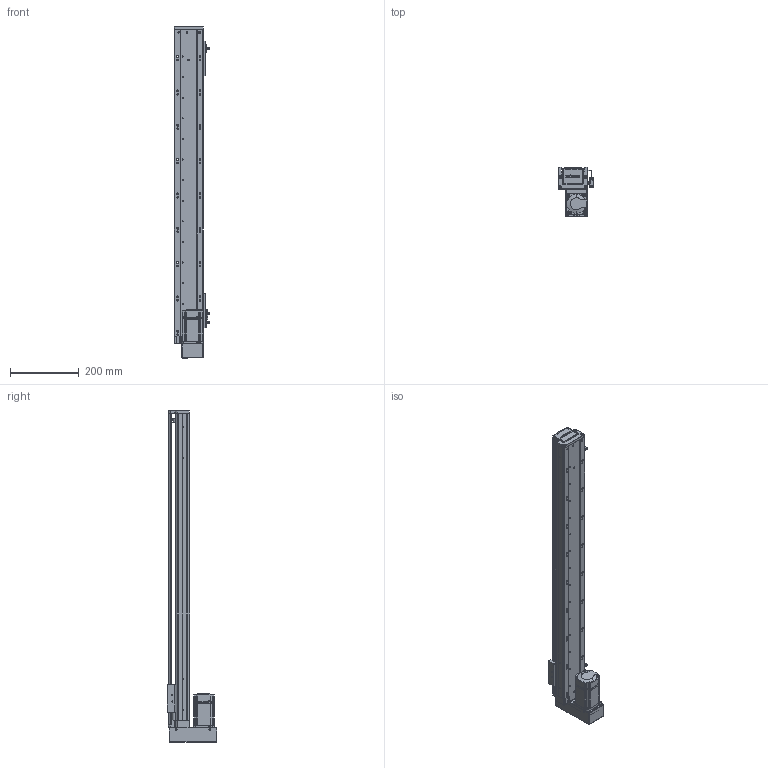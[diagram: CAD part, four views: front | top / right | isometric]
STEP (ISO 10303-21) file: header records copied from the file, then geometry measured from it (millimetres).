
FILE_DESCRIPTION (( 'STEP AP203' ), '1' );
FILE_NAME ('RY80-L1620-300-BK.SLDASM_750.step', '2021-02-20T07:11:02', ( '盈信电脑' ), ( '东莞市道滘镇水果街19号' ), 'SwSTEP 2.0', 'SolidWorks 2012', '' );
FILE_SCHEMA (( 'CONFIG_CONTROL_DESIGN' ));
Length unit declared in the file: millimetre
Products named in the file (15): RY80-L1620-300-BK.SLDASM_750; RY80狟殏萇儂假蚾啣; RY80狟殏俋欶; 滅袉蝶18-24; 侂狟200W萇儂; 1; RY80转接电机端支撑座; RY80俋离覜茼え; T倰羞; 滅袉蝶18-10; RY80綴裔啣; 覜茼ん672; RY80-300蛌諉倰第菁釱-BK_750; RY80-300蛌諉倰第奻裔啣-BK_750; RY80臏賑輸
Assembly tree (17 placements, depth 3):
  RY80-L1620-300-BK.SLDASM_750
    RY80-300蛌諉倰第菁釱-BK_750
    RY80臏賑輸
    RY80-300蛌諉倰第奻裔啣-BK_750
    RY80綴裔啣
    滅袉蝶18-10
    T倰羞  x2
    覜茼ん672  x3
    RY80俋离覜茼え
    RY80转接电机端支撑座
    侂狟200W萇儂
      1
    RY80狟殏萇儂假蚾啣
    RY80狟殏俋欶
    滅袉蝶18-24
Bounding box: 103.7 x 144 x 967 mm (x, y, z)
Volume: 1806003.4 mm3; surface area: 720076.7 mm2
Topology: 16 solids, 16 shells, 2249 faces, 6229 edges, 4039 vertices
Faces by surface type: plane 1188, cylinder 862, cone 137, bspline 62
Entity records: 72715 total; most frequent: CARTESIAN_POINT 19262, ORIENTED_EDGE 11154, DIRECTION 10254, EDGE_CURVE 5577, VERTEX_POINT 3655, AXIS2_PLACEMENT_3D 3453, VECTOR 3348, LINE 3348
